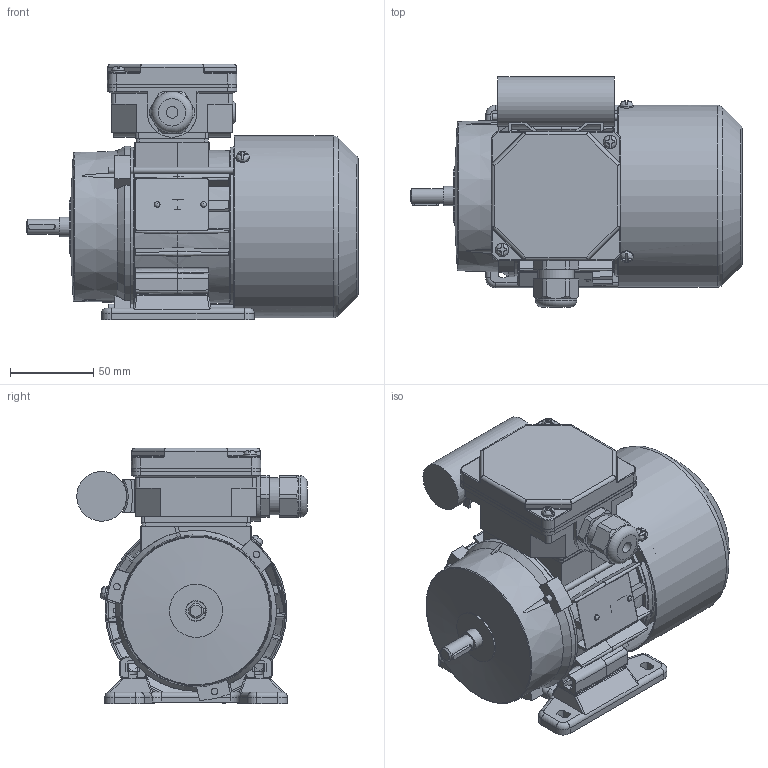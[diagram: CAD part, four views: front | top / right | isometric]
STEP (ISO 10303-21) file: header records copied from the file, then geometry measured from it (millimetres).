
FILE_DESCRIPTION( ( 'Unknown' ), '1' );
FILE_NAME( 'G:/Poczta Tk-1/STP/w.m.56/SEh56/SE(M)h56-C.stp', 'Unknown', ( 'K. Szlosek' ), ( 'BESEL S.A.' ), 'PSStep 17.0.49', 'Unknown', ' ' );
FILE_SCHEMA( ( 'AUTOMOTIVE_DESIGN { 1 0 10303 214 1 1 1 1 }' ) );
Length unit declared in the file: millimetre
Products named in the file (32): Assem1; K4-2320 Uszczelka nr 1 Sh71,80; K3-2193 Tarcza łożyskowa P Sg56-2..; K2-0860 Pokrywka skrzynki zaciskowej; Wpust A3x3x16; K3-2977 Osłona przewietrznika Sg56; K4-2820 Uszczelka nr 2 Sh71,80; Wkręt samogwintujący M4x8; Wkręt samogwintujący M4x16; K2-0879 Przewietrznik Sg56; Nitokołek A 2x6; K3-9440 Podstawa  skrzynki zaciskowej SEhR71-D; K4-0898 Tulejka uszczelniająca; K3-1974 Uchwyt kondensatora (mały); Kondensator bb 8uF; K3-2200 Tarcza łożyskowa N Sg56-...; K1-0484 Łapa Sg56-.. w. robocza; K3-9987 kadłub ze stojanem Sh56-C; K3-9990 wał Sh56-C; Śruba ściągająca E_M4x85; Tabliczka znamionowa 32x44; Łożysko 6201; Dławnica M20x1,5
Assembly tree (47 placements, depth 2):
  Assem1
    K4-2320 Uszczelka nr 1 Sh71,80
    K3-2193 Tarcza łożyskowa P Sg56-2..
    K2-0860 Pokrywka skrzynki zaciskowej
    Wpust A3x3x16
    K3-2977 Osłona przewietrznika Sg56
    K4-2820 Uszczelka nr 2 Sh71,80
    Wkręt samogwintujący M4x8  x3
    Wkręt samogwintujący M4x16  x2
    K2-0879 Przewietrznik Sg56
    Nitokołek A 2x6  x2
    K3-9440 Podstawa  skrzynki zaciskowej SEhR71-D
    K4-0898 Tulejka uszczelniająca
    K3-1974 Uchwyt kondensatora (mały)
    Kondensator bb 8uF
    K3-2200 Tarcza łożyskowa N Sg56-...
    K1-0484 Łapa Sg56-.. w. robocza
    K3-9987 kadłub ze stojanem Sh56-C
    K3-9990 wał Sh56-C
    Śruba ściągająca E_M4x85  x3
    Tabliczka znamionowa 32x44
    Łożysko 6201  x2
    Łożysko 6201  x2
    Łożysko 6201  x2
    Łożysko 6201  x2
    Łożysko 6201  x2
    Łożysko 6201  x2
    Łożysko 6201  x2
    Łożysko 6201  x2
    Łożysko 6201  x2
    Łożysko 6201  x2
    Dławnica M20x1,5
Bounding box: 200 x 138.82 x 154 mm (x, y, z)
Volume: 481395.9 mm3; surface area: 325240.4 mm2
Topology: 47 solids, 63 shells, 1933 faces, 5245 edges, 3395 vertices
Faces by surface type: plane 1018, cylinder 552, torus 139, cone 120, bspline 70, sphere 34
Full cylindrical faces by diameter (mm): 2 x2, 2.4 x2, 3 x1, 3.3 x3, 3.5 x2, 3.7 x10, 4 x8, 4.5 x4, 4.6 x1, 4.8 x4, 5 x4, 5.8 x4, 6.5 x1, 7 x4, 8 x6, 9 x1, 10 x2, 10.9 x1, 11 x1, 11.5 x1, 11.8 x2, 12 x4, 12.4 x2, 15.5 x1, 16 x1, 16.1 x1, 17 x2, 18 x1, 18.38 x1, 18.5 x1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
Entity records: 78959 total; most frequent: CARTESIAN_POINT 21019, ORIENTED_EDGE 9126, DIRECTION 9088, EDGE_CURVE 4563, AXIS2_PLACEMENT_3D 3364, VERTEX_POINT 3083, LINE 2360, VECTOR 2360
